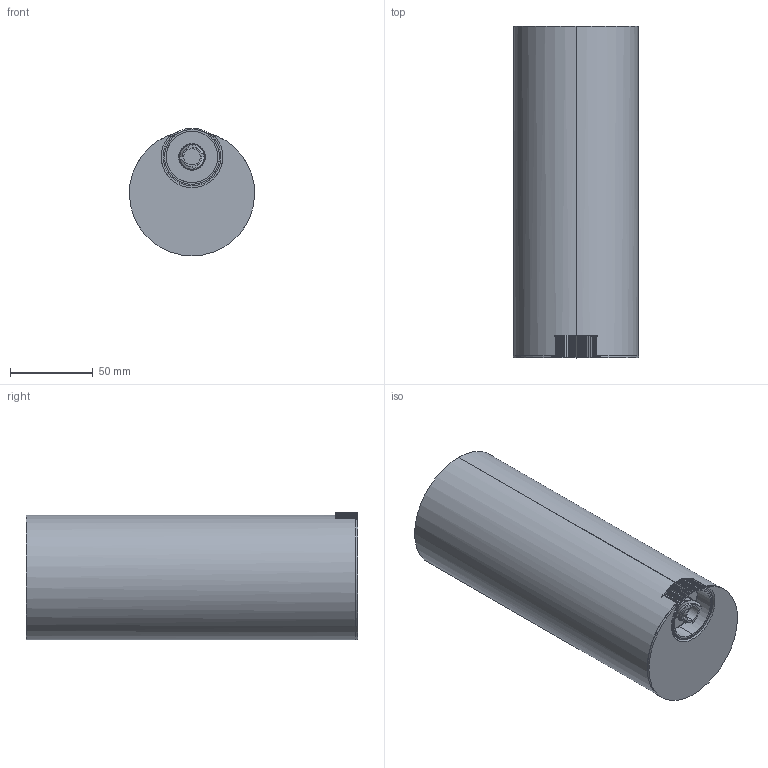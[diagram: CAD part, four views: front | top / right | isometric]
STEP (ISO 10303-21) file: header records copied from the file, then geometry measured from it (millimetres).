
FILE_DESCRIPTION (( 'STEP AP214' ), '1' );
FILE_NAME ('Pringles Elevator Can_r05.STEP', '2020-01-14T19:02:40', ( '' ), ( '' ), 'SwSTEP 2.0', 'SolidWorks 2019', '' );
FILE_SCHEMA (( 'AUTOMOTIVE_DESIGN' ));
Length unit declared in the file: inch
Products named in the file (6): Pringles Knob_r04; Pringles Deordorant Can R05; Pringles Knob Cap_r04; Pringles Elevator Can_r05; Pringles original can; Pringles Platform_r04
Assembly tree (5 placements, depth 2):
  Pringles Elevator Can_r05
    Pringles Deordorant Can R05
    Pringles Knob Cap_r04
    Pringles Knob_r04
    Pringles Platform_r04
    Pringles original can
Bounding box: 75.46 x 200 x 77.12 mm (x, y, z)
Volume: 152424.9 mm3; surface area: 277815.3 mm2
Topology: 8 solids, 8 shells, 716 faces, 1986 edges, 1316 vertices
Faces by surface type: plane 452, cylinder 144, bspline 96, cone 16, torus 8
Entity records: 41863 total; most frequent: CARTESIAN_POINT 24508, ORIENTED_EDGE 3972, DIRECTION 2954, EDGE_CURVE 1986, VERTEX_POINT 1316, LINE 1258, VECTOR 1258, AXIS2_PLACEMENT_3D 848
